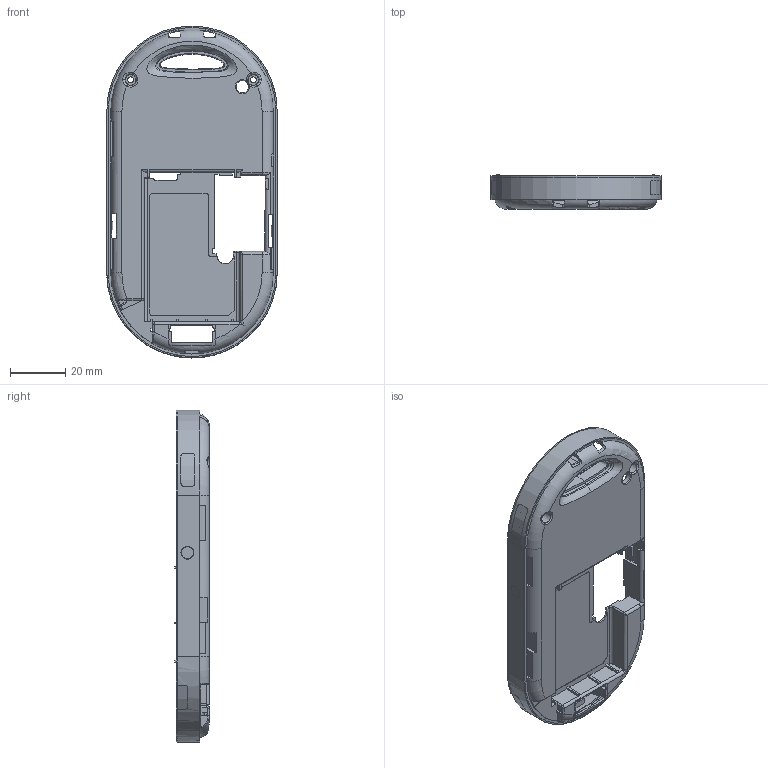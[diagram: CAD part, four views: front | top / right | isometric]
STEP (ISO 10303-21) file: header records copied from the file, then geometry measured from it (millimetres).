
FILE_DESCRIPTION((''),'2;1');
FILE_NAME('GTC01-A-MFM01_PRT','2008-06-30T',('GRA'),(''),'PRO/ENGINEER BY PARAMETRIC TECHNOLOGY CORPORATION, 2006170','PRO/ENGINEER BY PARAMETRIC TECHNOLOGY CORPORATION, 2006170','');
FILE_SCHEMA(('CONFIG_CONTROL_DESIGN'));
Products named in the file (1): GTC01-A-MFM01_PRT
Bounding box: 62 x 12.5 x 120.7 mm (x, y, z)
Volume: 11775.3 mm3; surface area: 31298.3 mm2
Topology: 1 solids, 27 shells, 1157 faces, 3846 edges, 2713 vertices
Faces by surface type: plane 705, cylinder 277, cone 76, bspline 53, torus 35, extrusion 7, sphere 4
Entity records: 54611 total; most frequent: CARTESIAN_POINT 22492, ORIENTED_EDGE 7048, DIRECTION 5570, EDGE_CURVE 3846, VERTEX_POINT 2713, VECTOR 2346, LINE 2339, AXIS2_PLACEMENT_3D 1612
